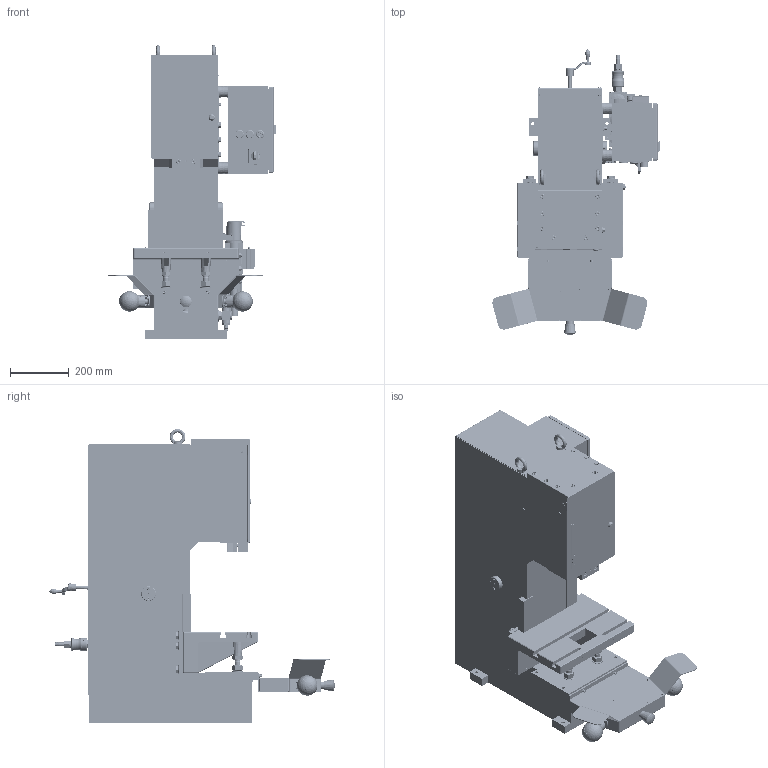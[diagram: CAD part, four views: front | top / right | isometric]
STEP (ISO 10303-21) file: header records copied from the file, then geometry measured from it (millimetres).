
FILE_DESCRIPTION(/* description */ (''),/* implementation_level */ '2;1');
FILE_NAME(/* name */ 'P:\CAD-Daten-für-Kunden\07_Pressen KHP\01_KHP Standard\mit ZS07\Presse_KHP_100kN_G800_Hub40+V_ANR31994+ZS07.stp',/* time_stamp */ '2021-03-08T11:55:15+01:00',/* author */ ('tse'),/* organization */ (''),/* preprocessor_version */ 'ST-DEVELOPER v18',/* originating_system */ 'Autodesk Inventor 2020',/* authorisation */ '');
FILE_SCHEMA (('AUTOMOTIVE_DESIGN { 1 0 10303 214 3 1 1 }'));
Products named in the file (8): Presse_KHP_100kN_G800_Hub40+V_ANR31994+ZS07; Ständereinheit_KHP_100kN_G800_V; Tischeinheit_KHP_50-70-100kN_HPC_110kN_ANR18613; Schlittendummy_KHP_50-70-100kN_HPC_110kN_ANR18607; ZS07_Steuerung_KHP_1-2_ANR_31205; Zweihand_Tasterkasten_mit_Safeballs_und_Not-Aus_ANR_30032; Pneumatik_KHP_1_2kN; ZS07_Steuerkasten_ANR_31201
Assembly tree (7 placements, depth 3):
  Presse_KHP_100kN_G800_Hub40+V_ANR31994+ZS07
    Ständereinheit_KHP_100kN_G800_V
    Tischeinheit_KHP_50-70-100kN_HPC_110kN_ANR18613
    Schlittendummy_KHP_50-70-100kN_HPC_110kN_ANR18607
    ZS07_Steuerung_KHP_1-2_ANR_31205
      Zweihand_Tasterkasten_mit_Safeballs_und_Not-Aus_ANR_30032
      Pneumatik_KHP_1_2kN
      ZS07_Steuerkasten_ANR_31201
Bounding box: 571.47 x 975.7 x 1005 mm (x, y, z)
Volume: 94813907.2 mm3; surface area: 4365941.7 mm2
Topology: 13 solids, 74 shells, 17013 faces, 46107 edges, 30694 vertices
Faces by surface type: plane 9666, bspline 4205, cylinder 2021, cone 821, torus 232, sphere 68
Full cylindrical faces by diameter (mm): 0.4 x1, 0.474 x1, 0.98 x3, 1.1 x40, 1.5 x1, 1.6 x2, 1.9 x4, 2 x17, 2.013 x1, 2.1 x8, 2.459 x8, 2.5 x6, 2.75 x4, 3 x16, 3.1 x5, 3.141 x8, 3.2 x8, 3.242 x14, 3.4 x4, 3.7 x8, 3.8 x2, 4 x27, 4.1 x17, 4.134 x4, 4.2 x6, 4.3 x2, 4.4 x4, 4.5 x18, 4.8 x5, 4.9 x1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
Entity records: 582812 total; most frequent: CARTESIAN_POINT 161157, ORIENTED_EDGE 92000, DIRECTION 68892, EDGE_CURVE 46000, VERTEX_POINT 30694, LINE 28764, VECTOR 28764, AXIS2_PLACEMENT_3D 20064
